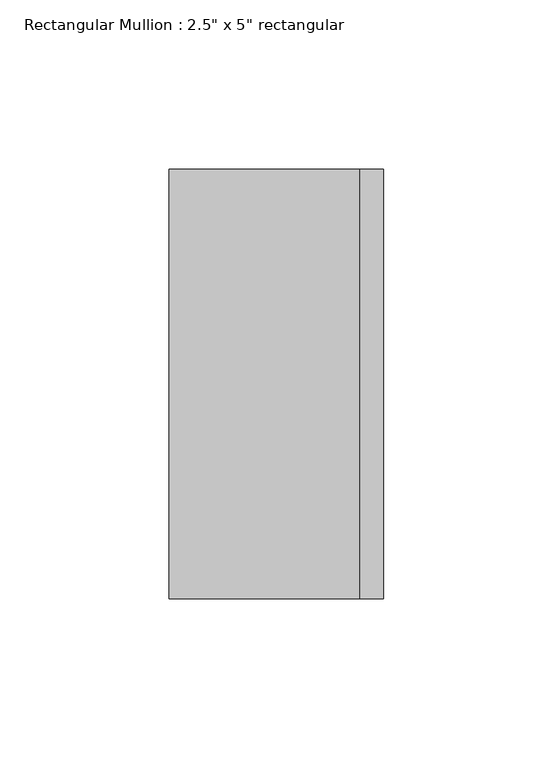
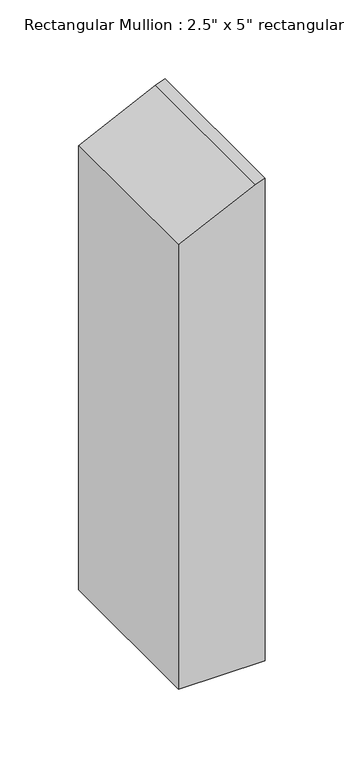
"""IFC4 building model written with IfcOpenShell, lengths in millimetres: member geometry."""

from ifc_helpers import new_model, si_unit, frame, origin, place, context, project, spatial, polyline, outline, extrude, source, transform, mapped, element, save


def member_73fb274f(model_context):
    return source(origin(), model_context, "Body", "SweptSolid", [
        extrude(outline(polyline([(-55.9643443, 31.75), (-58.5550931, 24.7389304), (-85.5312666, -31.75), (-429.8687964, -31.75), (-429.8687964, 31.75), (-55.9643443, 31.75)])), frame((0.0, -63.5, 0.0), z_axis=(0.0, 1.0, 0.0), x_axis=(0.0, 0.0, 1.0)), (0.0, 0.0, 1.0), 127.0),
    ])


if __name__ == "__main__":
    model = new_model("IFC4")
    model_context = context("Model", 3, world=origin())
    ifc_project = project(units=[si_unit("LENGTHUNIT", "METRE", prefix="MILLI")], contexts=[model_context])
    site = spatial("IfcSite", under=ifc_project)
    building = spatial("IfcBuilding", under=site)
    placement = place(None, origin())
    member_shape = member_73fb274f(model_context)
    element("IfcMember", 1, ObjectType="Rectangular Mullion : 2.5\" x 5\" rectangular", at=placement, inside=building, context=model_context, shape_type="MappedRepresentation", body=[
        mapped(member_shape, transform((0.0, 0.0, 0.0), x_axis=(1.0, 0.0, 0.0), y_axis=(0.0, 1.0, 0.0), z_axis=(0.0, 0.0, 1.0))),
    ])
    save(model, "model.ifc")
